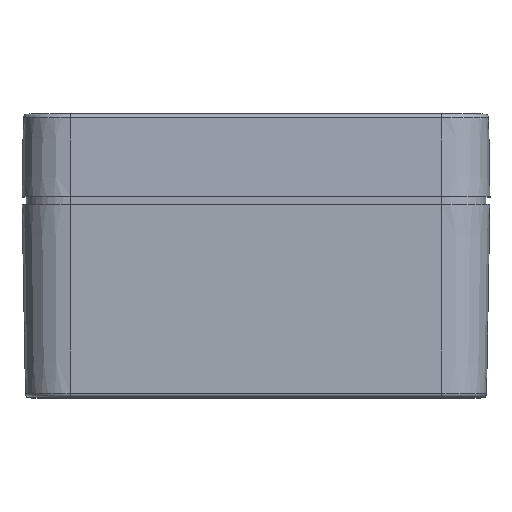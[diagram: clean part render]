
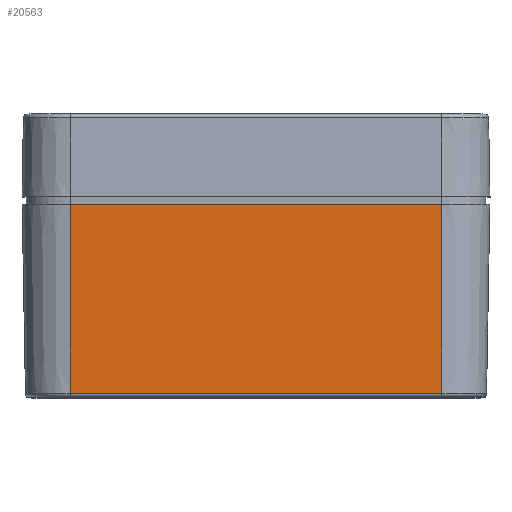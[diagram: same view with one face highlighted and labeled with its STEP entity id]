
A CAD part, top view. The second image highlights one B-rep face of the part: STEP entity #20563.
In plain terms, the highlighted planar face has unit normal (0, -0.018, 1).
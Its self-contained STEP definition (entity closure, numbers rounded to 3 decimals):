
#718 = AXIS2_PLACEMENT_3D ( 'NONE', #10070, #22135, #9582 ) ;
#2471 = FACE_OUTER_BOUND ( 'NONE', #7061, .T. ) ;
#3078 = VECTOR ( 'NONE', #9816, 1000. ) ;
#5964 = EDGE_CURVE ( 'NONE', #30655, #27470, #7052, .T. ) ;
#6344 = DIRECTION ( 'NONE',  ( -1., 0., 0. ) ) ;
#7052 = LINE ( 'NONE', #27200, #9107 ) ;
#7061 = EDGE_LOOP ( 'NONE', ( #29090, #17806, #9577, #17244 ) ) ;
#9107 = VECTOR ( 'NONE', #32487, 1000. ) ;
#9332 = DIRECTION ( 'NONE',  ( 1., 0., 0. ) ) ;
#9577 = ORIENTED_EDGE ( 'NONE', *, *, #5964, .F. ) ;
#9582 = DIRECTION ( 'NONE',  ( 0., -1., -0.017 ) ) ;
#9816 = DIRECTION ( 'NONE',  ( 0., 1., 0.017 ) ) ;
#10070 = CARTESIAN_POINT ( 'NONE',  ( 23., 0., 32. ) ) ;
#10827 = LINE ( 'NONE', #20902, #11861 ) ;
#11656 = VERTEX_POINT ( 'NONE', #31448 ) ;
#11861 = VECTOR ( 'NONE', #6344, 1000. ) ;
#12665 = CARTESIAN_POINT ( 'NONE',  ( 23., -24.409, 31.574 ) ) ;
#17244 = ORIENTED_EDGE ( 'NONE', *, *, #18511, .T. ) ;
#17806 = ORIENTED_EDGE ( 'NONE', *, *, #21940, .T. ) ;
#18511 = EDGE_CURVE ( 'NONE', #30655, #22883, #24517, .T. ) ;
#20563 = ADVANCED_FACE ( 'NONE', ( #2471 ), #32703, .T. ) ;
#20902 = CARTESIAN_POINT ( 'NONE',  ( 23., -1., 31.983 ) ) ;
#21940 = EDGE_CURVE ( 'NONE', #11656, #27470, #10827, .T. ) ;
#22135 = DIRECTION ( 'NONE',  ( 0., -0.017, 1. ) ) ;
#22185 = VECTOR ( 'NONE', #9332, 1000. ) ;
#22883 = VERTEX_POINT ( 'NONE', #12665 ) ;
#23207 = EDGE_CURVE ( 'NONE', #22883, #11656, #27486, .T. ) ;
#24352 = CARTESIAN_POINT ( 'NONE',  ( 23., -24.409, 31.574 ) ) ;
#24517 = LINE ( 'NONE', #24352, #22185 ) ;
#25151 = CARTESIAN_POINT ( 'NONE',  ( 23., 0., 32. ) ) ;
#25749 = CARTESIAN_POINT ( 'NONE',  ( -23., -1., 31.983 ) ) ;
#26914 = CARTESIAN_POINT ( 'NONE',  ( -23., -24.409, 31.574 ) ) ;
#27200 = CARTESIAN_POINT ( 'NONE',  ( -23., 0., 32. ) ) ;
#27470 = VERTEX_POINT ( 'NONE', #25749 ) ;
#27486 = LINE ( 'NONE', #25151, #3078 ) ;
#29090 = ORIENTED_EDGE ( 'NONE', *, *, #23207, .T. ) ;
#30655 = VERTEX_POINT ( 'NONE', #26914 ) ;
#31448 = CARTESIAN_POINT ( 'NONE',  ( 23., -1., 31.983 ) ) ;
#32487 = DIRECTION ( 'NONE',  ( 0., 1., 0.017 ) ) ;
#32703 = PLANE ( 'NONE',  #718 ) ;
